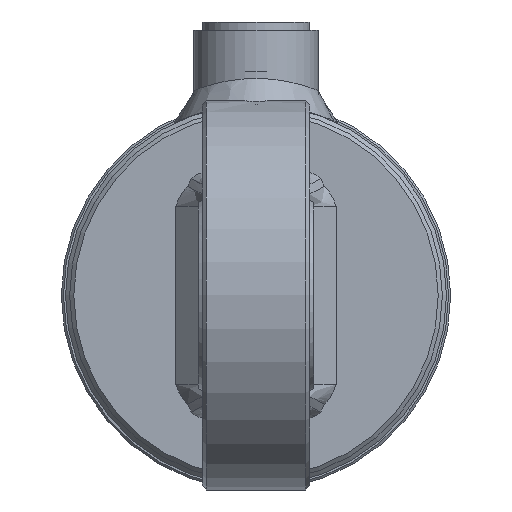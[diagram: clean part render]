
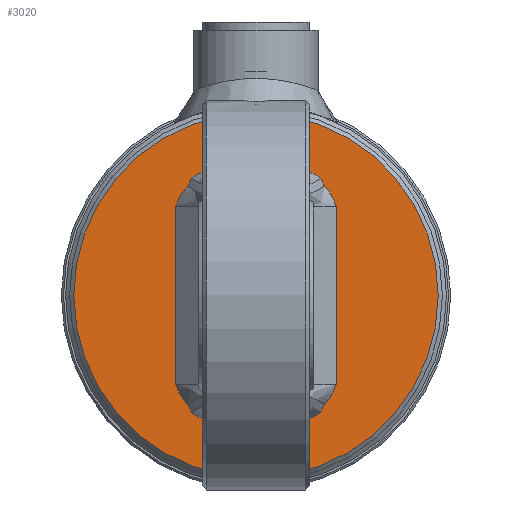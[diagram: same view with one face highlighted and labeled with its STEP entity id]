
A CAD part, left-side view. The second image highlights one B-rep face of the part: STEP entity #3020.
In plain terms, the highlighted planar face has unit normal (-1, 0, 0).
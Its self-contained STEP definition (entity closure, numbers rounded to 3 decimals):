
#3020 = ADVANCED_FACE( '', ( #9493 ), #9494, .T. );
#9493 = FACE_OUTER_BOUND( '', #11517, .T. );
#9494 = PLANE( '', #11518 );
#11517 = EDGE_LOOP( '', ( #12518 ) );
#11518 = AXIS2_PLACEMENT_3D( '', #12519, #12520, #12521 );
#12518 = ORIENTED_EDGE( '', *, *, #13843, .T. );
#12519 = CARTESIAN_POINT( '', ( -12., 0., 0. ) );
#12520 = DIRECTION( '', ( -1., 0., 0. ) );
#12521 = DIRECTION( '', ( 0., -1., 0. ) );
#13843 = EDGE_CURVE( '', #17593, #17593, #17594, .T. );
#17593 = VERTEX_POINT( '', #18189 );
#17594 = CIRCLE( '', #18190, 44. );
#18189 = CARTESIAN_POINT( '', ( -12., -44., 0. ) );
#18190 = AXIS2_PLACEMENT_3D( '', #18327, #18328, #18329 );
#18327 = CARTESIAN_POINT( '', ( -12., 0., 0. ) );
#18328 = DIRECTION( '', ( -1., 0., 0. ) );
#18329 = DIRECTION( '', ( 0., -1., 0. ) );
